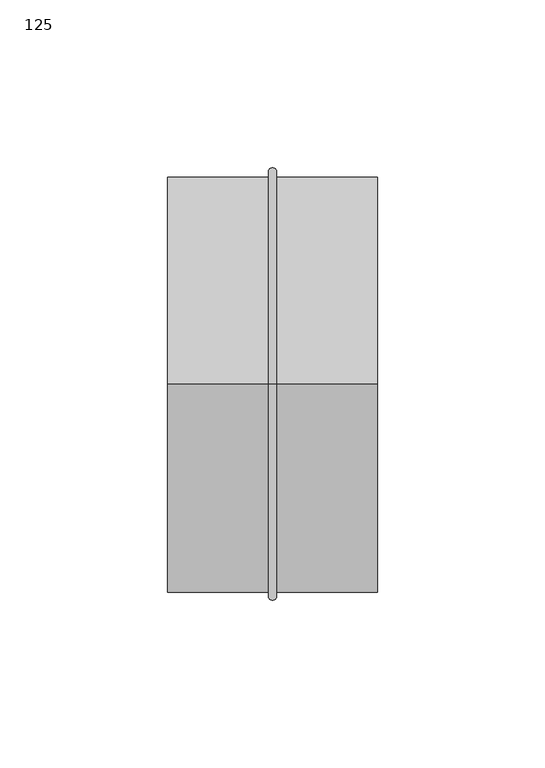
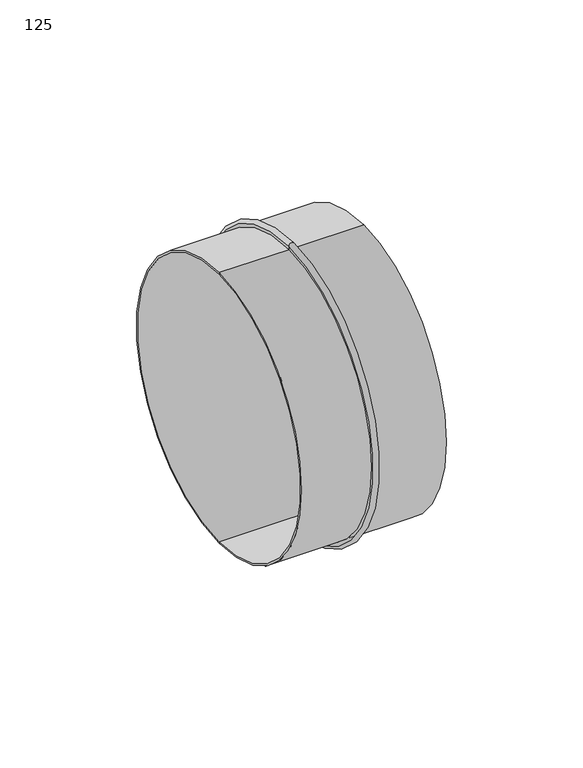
"""IFC4 building model written with IfcOpenShell, lengths in millimetres: duct fitting geometry, Renson_Easyflex_Round_Coupling_S : 125."""

from ifc_helpers import new_model, si_unit, point, frame, origin, place, context, project, spatial, polyline, circle_curve, ellipse_curve, trimmed, source, transform, mapped, element, save
from ifc_brep_helpers import plane_surface, cylinder_surface, revolved_surface, advanced_brep


def duct_fitting_125_ba9f99c0(model_context):
    return source(origin(), model_context, "Body", "AdvancedBrep", [
        advanced_brep(
        [(31.25, 0.0, -61.2), (31.25, 0.0, 61.2), (-31.25, 0.0, 61.2), (-31.25, 0.0, -61.2), (-31.25, 0.0, -62.0), (-31.25, 0.0, 62.0), (-1.25, 0.0, 62.0), (-1.25, 0.0, -62.0), (1.25, 0.0, -62.0), (1.25, 0.0, 62.0), (31.25, 0.0, 62.0), (31.25, 0.0, -62.0), (1.25, 0.0, -63.5), (1.25, 0.0, 63.5), (-1.25, 0.0, -63.5), (-1.25, 0.0, 63.5)],
        [
            (0, 1, circle_curve(frame((31.25, 0.0, 0.0), z_axis=(1.0, 0.0, 0.0), x_axis=(0.0, 0.0, 1.0)), 61.2)),
            (1, 2),
            (2, 3, circle_curve(frame((-31.25, 0.0, 0.0), z_axis=(-1.0, 0.0, 0.0), x_axis=(0.0, 0.0, 1.0)), 61.2)),
            (3, 0),
            (1, 0, circle_curve(frame((31.25, 0.0, 0.0), z_axis=(1.0, 0.0, 0.0), x_axis=(0.0, 0.0, 1.0)), 61.2)),
            (3, 2, circle_curve(frame((-31.25, 0.0, 0.0), z_axis=(-1.0, 0.0, 0.0), x_axis=(0.0, 0.0, 1.0)), 61.2)),
            (4, 5, circle_curve(frame((-31.25, 0.0, 0.0), z_axis=(1.0, 0.0, 0.0), x_axis=(0.0, 0.0, 1.0)), 62.0)),
            (5, 6),
            (6, 7, circle_curve(frame((-1.25, 0.0, 0.0), z_axis=(-1.0, 0.0, 0.0), x_axis=(0.0, 0.0, 1.0)), 62.0)),
            (7, 4),
            (5, 4, circle_curve(frame((-31.25, 0.0, 0.0), z_axis=(1.0, 0.0, 0.0), x_axis=(0.0, 0.0, 1.0)), 62.0)),
            (7, 6, circle_curve(frame((-1.25, 0.0, 0.0), z_axis=(-1.0, 0.0, 0.0), x_axis=(0.0, 0.0, 1.0)), 62.0)),
            (8, 9, circle_curve(frame((1.25, 0.0, 0.0), z_axis=(1.0, 0.0, 0.0), x_axis=(0.0, 0.0, 1.0)), 62.0)),
            (9, 10),
            (10, 11, circle_curve(frame((31.25, 0.0, 0.0), z_axis=(-1.0, 0.0, 0.0), x_axis=(0.0, 0.0, 1.0)), 62.0)),
            (11, 8),
            (9, 8, circle_curve(frame((1.25, 0.0, 0.0), z_axis=(1.0, 0.0, 0.0), x_axis=(0.0, 0.0, 1.0)), 62.0)),
            (11, 10, circle_curve(frame((31.25, 0.0, 0.0), z_axis=(-1.0, 0.0, 0.0), x_axis=(0.0, 0.0, 1.0)), 62.0)),
            (2, 5),
            (4, 3),
            (10, 1),
            (0, 11),
            (12, 13, circle_curve(frame((1.25, 0.0, 0.0), z_axis=(1.0, 0.0, 0.0), x_axis=(0.0, 0.0, 1.0)), 63.5)),
            (13, 9),
            (8, 12),
            (13, 12, circle_curve(frame((1.25, 0.0, 0.0), z_axis=(1.0, 0.0, 0.0), x_axis=(0.0, 0.0, 1.0)), 63.5)),
            (14, 15, circle_curve(frame((-1.25, 0.0, 0.0), z_axis=(1.0, 0.0, 0.0), x_axis=(0.0, 0.0, 1.0)), 63.5)),
            (15, 13, circle_curve(frame((0.0, 0.0, 63.5), z_axis=(0.0, 1.0, 0.0), x_axis=(1.0, 0.0, 0.0)), 1.25)),
            (12, 14, circle_curve(frame((0.0, 0.0, -63.5), z_axis=(0.0, 1.0, 0.0), x_axis=(1.0, 0.0, 0.0)), 1.25)),
            (15, 14, circle_curve(frame((-1.25, 0.0, 0.0), z_axis=(1.0, 0.0, 0.0), x_axis=(0.0, 0.0, 1.0)), 63.5)),
            (6, 15),
            (14, 7),
        ],
        [
            revolved_surface(polyline([(-31.25, 0.0, 61.2), (31.25, 0.0, 61.2)]), (71.25, 0.0, 0.0), (-1.0, 0.0, 0.0)),
            cylinder_surface(frame((71.25, 0.0, 0.0), z_axis=(-1.0, 0.0, 0.0), x_axis=(0.0, 0.0, 1.0)), 62.0),
            plane_surface(frame((-31.25, 0.0, 0.0), z_axis=(-1.0, 0.0, 0.0), x_axis=(0.0, 0.0, 1.0))),
            plane_surface(frame((31.25, 0.0, 0.0), z_axis=(1.0, 0.0, 0.0), x_axis=(0.0, 0.0, 1.0))),
            plane_surface(frame((1.25, 0.0, 0.0), z_axis=(1.0, 0.0, 0.0), x_axis=(0.0, 0.0, 1.0))),
            revolved_surface(trimmed(ellipse_curve(frame((0.0, 0.0, 63.5), z_axis=(0.0, -1.0, 0.0), x_axis=(1.0, 0.0, 0.0)), 1.25, 1.25), [point((1.25, 0.0, 63.5))], [point((-1.25, 0.0, 63.5))], True, "CARTESIAN"), (71.25, 0.0, 0.0), (-1.0, 0.0, 0.0)),
            plane_surface(frame((-1.25, 0.0, 0.0), z_axis=(-1.0, 0.0, 0.0), x_axis=(0.0, 0.0, 1.0))),
        ],
        [
            (0, [[1, 2, 3, 4]]),
            (0, [[5, -4, 6, -2]]),
            (1, [[7, 8, 9, 10]]),
            (1, [[11, -10, 12, -8]]),
            (1, [[13, 14, 15, 16]]),
            (1, [[17, -16, 18, -14]]),
            (2, [[-3, 19, -7, 20]]),
            (2, [[-6, -20, -11, -19]]),
            (3, [[-15, 21, -1, 22]]),
            (3, [[-18, -22, -5, -21]]),
            (4, [[23, 24, -13, 25]]),
            (4, [[26, -25, -17, -24]]),
            (5, [[27, 28, -23, 29]]),
            (5, [[30, -29, -26, -28]]),
            (6, [[-9, 31, -27, 32]]),
            (6, [[-12, -32, -30, -31]]),
        ],
    ),
    ])


if __name__ == "__main__":
    model = new_model("IFC4")
    model_context = context("Model", 3, world=origin())
    ifc_project = project(units=[si_unit("LENGTHUNIT", "METRE", prefix="MILLI")], contexts=[model_context])
    site = spatial("IfcSite", under=ifc_project)
    building = spatial("IfcBuilding", under=site)
    placement = place(None, origin())
    duct_fitting_125_shape = duct_fitting_125_ba9f99c0(model_context)
    element("IfcDuctFitting", 1, ObjectType="Renson_Easyflex_Round_Coupling_S : 125", at=placement, inside=building, context=model_context, shape_type="MappedRepresentation", body=[
        mapped(duct_fitting_125_shape, transform((0.0, 0.0, 0.0), x_axis=(1.0, 0.0, 0.0), y_axis=(0.0, 1.0, 0.0), z_axis=(0.0, 0.0, 1.0))),
    ])
    save(model, "model.ifc")
